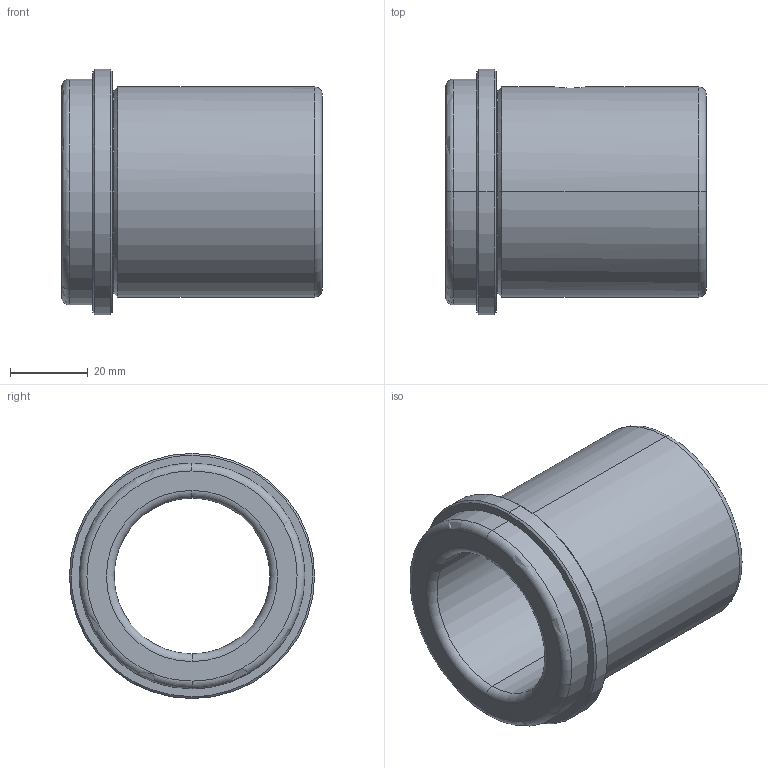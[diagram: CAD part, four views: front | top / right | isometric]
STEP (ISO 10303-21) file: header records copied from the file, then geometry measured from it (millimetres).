
FILE_DESCRIPTION(('CATIA V5 STEP Exchange'),'2;1');
FILE_NAME('C:\Users\Utente\Desktop\IO LAVORO\3D X SITO CF\X SITO\CF 632\CF 632 40 x 67.stp','2020-12-26T19:34:47+00:00',('none'),('none'),'CATIA Version 5 Release 20 GA (IN-10)','CATIA V5 STEP AP203','none');
FILE_SCHEMA(('CONFIG_CONTROL_DESIGN'));
Length unit declared in the file: millimetre
Products named in the file (1): CF 632 40 x 67
Bounding box: 67 x 63 x 63 mm (x, y, z)
Volume: 74802.7 mm3; surface area: 23656.6 mm2
Topology: 1 solids, 1 shells, 33 faces, 114 edges, 86 vertices
Faces by surface type: cylinder 12, torus 8, cone 8, plane 5
Entity records: 1549 total; most frequent: CARTESIAN_POINT 533, ORIENTED_EDGE 228, DIRECTION 156, EDGE_CURVE 114, AXIS2_PLACEMENT_3D 104, VERTEX_POINT 86, CIRCLE 70, EDGE_LOOP 40
